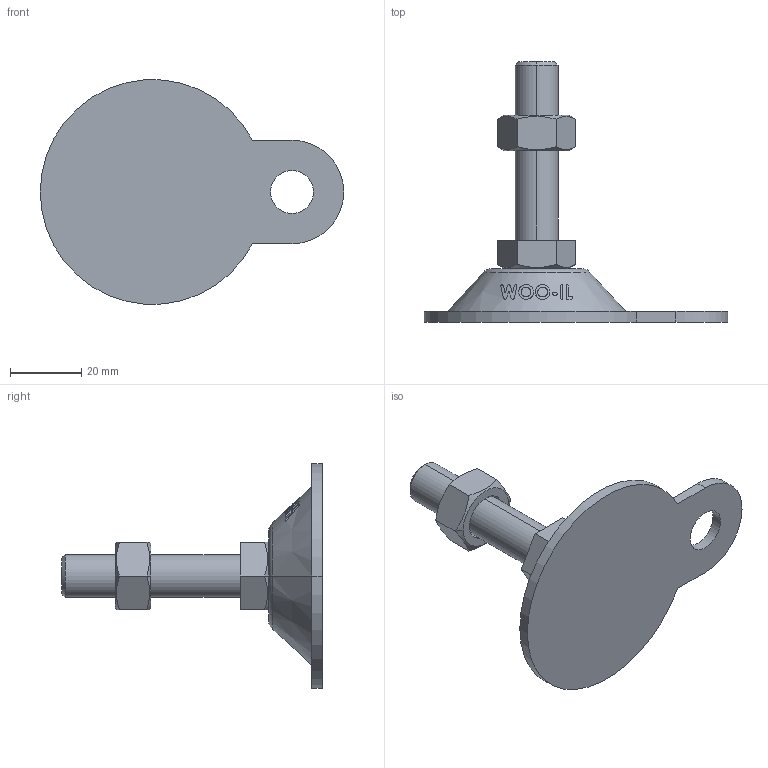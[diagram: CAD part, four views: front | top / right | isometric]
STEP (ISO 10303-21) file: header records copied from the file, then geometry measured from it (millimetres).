
FILE_DESCRIPTION (( 'STEP AP214' ), '1' );
FILE_NAME ('ABL63-M12-50.step', '2021-02-05T04:19:27', ( '' ), ( '' ), 'SwSTEP 2.0', 'SolidWorks 2019', '' );
FILE_SCHEMA (( 'AUTOMOTIVE_DESIGN' ));
Length unit declared in the file: millimetre
Products named in the file (2): ABL63-M12-50
Bounding box: 85 x 73 x 62.83 mm (x, y, z)
Volume: 35479 mm3; surface area: 12544 mm2
Topology: 2 solids, 2 shells, 128 faces, 325 edges, 212 vertices
Faces by surface type: plane 48, cylinder 38, cone 22, bspline 18, torus 2
Entity records: 5459 total; most frequent: CARTESIAN_POINT 2573, ORIENTED_EDGE 650, DIRECTION 473, EDGE_CURVE 325, VERTEX_POINT 212, AXIS2_PLACEMENT_3D 176, EDGE_LOOP 143, B_SPLINE_CURVE_WITH_KNOTS 140
